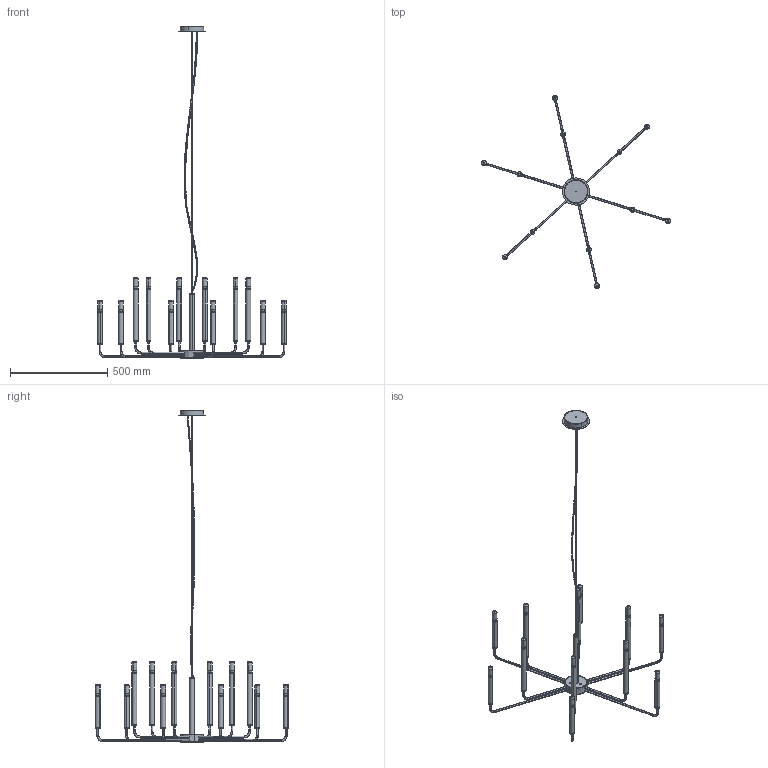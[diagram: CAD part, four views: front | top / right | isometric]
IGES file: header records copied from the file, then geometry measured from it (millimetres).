
Start section: SolidWorks IGES file using analytic representation for surfaces
Global section: file name: C:\Users\anna.bielnik\Desktop\ORTO XII A\ORTO-XII-A-11462-11463\2x6 pm.IGS; native system: SolidWorks 2023; preprocessor: SolidWorks 2023; author: anna.bielnik; date: 241114.143029; units: millimetre
Bounding box: 970.98 x 992.4 x 1706.5 mm (x, y, z)
Surface area: 776678.4 mm2 (no closed solid volume)
Topology: 0 solids, 0 shells, 515 faces, 10128 edges, 10128 vertices
Faces by surface type: revolution 282, bspline 233
